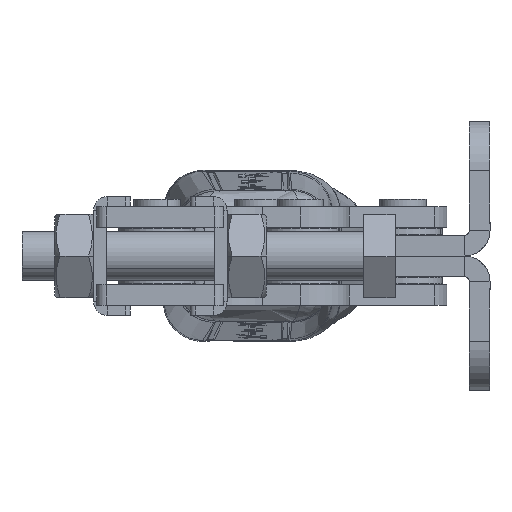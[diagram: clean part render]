
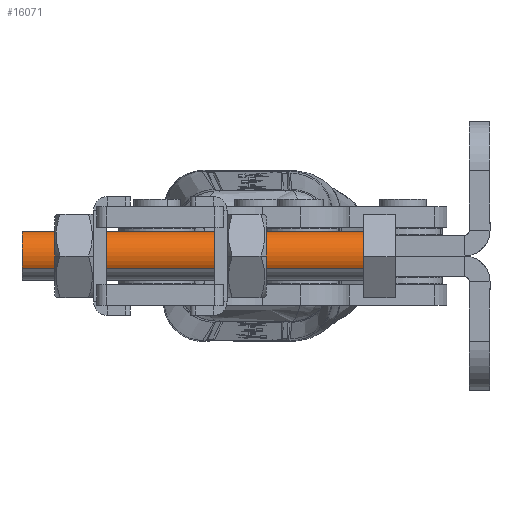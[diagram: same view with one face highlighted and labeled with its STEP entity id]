
A CAD part, left-side view. The second image highlights one B-rep face of the part: STEP entity #16071.
In plain terms, the highlighted cylindrical face has radius 5 mm (diameter 10 mm), a partial arc.
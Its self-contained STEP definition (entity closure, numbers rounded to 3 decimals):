
#196 = AXIS2_PLACEMENT_3D ( 'NONE', #20754, #9951, #22587 ) ;
#313 = CARTESIAN_POINT ( 'NONE',  ( 0., -70., -5. ) ) ;
#1086 = CIRCLE ( 'NONE', #196, 5. ) ;
#1453 = CARTESIAN_POINT ( 'NONE',  ( 0., -70., -5. ) ) ;
#3007 = EDGE_CURVE ( 'NONE', #13624, #12711, #1086, .T. ) ;
#3847 = VECTOR ( 'NONE', #14015, 1000. ) ;
#5592 = CARTESIAN_POINT ( 'NONE',  ( 0., 0., -5. ) ) ;
#5723 = EDGE_CURVE ( 'NONE', #12711, #19776, #23012, .T. ) ;
#6261 = DIRECTION ( 'NONE',  ( 0., 1., 0. ) ) ;
#6622 = VERTEX_POINT ( 'NONE', #16853 ) ;
#7961 = CARTESIAN_POINT ( 'NONE',  ( 0., 0., 0. ) ) ;
#8947 = EDGE_LOOP ( 'NONE', ( #19025, #22504, #14149, #18942 ) ) ;
#9576 = VECTOR ( 'NONE', #6261, 1000. ) ;
#9764 = DIRECTION ( 'NONE',  ( 0., 0., 1. ) ) ;
#9951 = DIRECTION ( 'NONE',  ( 0., -1., 0. ) ) ;
#10261 = DIRECTION ( 'NONE',  ( 0., 0., 1. ) ) ;
#11979 = CARTESIAN_POINT ( 'NONE',  ( 0., -70., 5. ) ) ;
#12384 = EDGE_CURVE ( 'NONE', #6622, #19776, #22438, .T. ) ;
#12671 = CYLINDRICAL_SURFACE ( 'NONE', #14473, 5. ) ;
#12711 = VERTEX_POINT ( 'NONE', #313 ) ;
#13226 = FACE_OUTER_BOUND ( 'NONE', #8947, .T. ) ;
#13624 = VERTEX_POINT ( 'NONE', #11979 ) ;
#13698 = DIRECTION ( 'NONE',  ( 0., 1., 0. ) ) ;
#14015 = DIRECTION ( 'NONE',  ( 0., 1., 0. ) ) ;
#14149 = ORIENTED_EDGE ( 'NONE', *, *, #17604, .T. ) ;
#14473 = AXIS2_PLACEMENT_3D ( 'NONE', #21072, #13698, #10261 ) ;
#16071 = ADVANCED_FACE ( 'NONE', ( #13226 ), #12671, .T. ) ;
#16654 = AXIS2_PLACEMENT_3D ( 'NONE', #7961, #20557, #9764 ) ;
#16853 = CARTESIAN_POINT ( 'NONE',  ( 0., 0., 5. ) ) ;
#17604 = EDGE_CURVE ( 'NONE', #13624, #6622, #18601, .T. ) ;
#18601 = LINE ( 'NONE', #20734, #9576 ) ;
#18942 = ORIENTED_EDGE ( 'NONE', *, *, #12384, .T. ) ;
#19025 = ORIENTED_EDGE ( 'NONE', *, *, #5723, .F. ) ;
#19776 = VERTEX_POINT ( 'NONE', #5592 ) ;
#20557 = DIRECTION ( 'NONE',  ( 0., -1., 0. ) ) ;
#20734 = CARTESIAN_POINT ( 'NONE',  ( 0., -70., 5. ) ) ;
#20754 = CARTESIAN_POINT ( 'NONE',  ( 0., -70., 0. ) ) ;
#21072 = CARTESIAN_POINT ( 'NONE',  ( 0., -70., 0. ) ) ;
#22438 = CIRCLE ( 'NONE', #16654, 5. ) ;
#22504 = ORIENTED_EDGE ( 'NONE', *, *, #3007, .F. ) ;
#22587 = DIRECTION ( 'NONE',  ( 0., 0., -1. ) ) ;
#23012 = LINE ( 'NONE', #1453, #3847 ) ;
